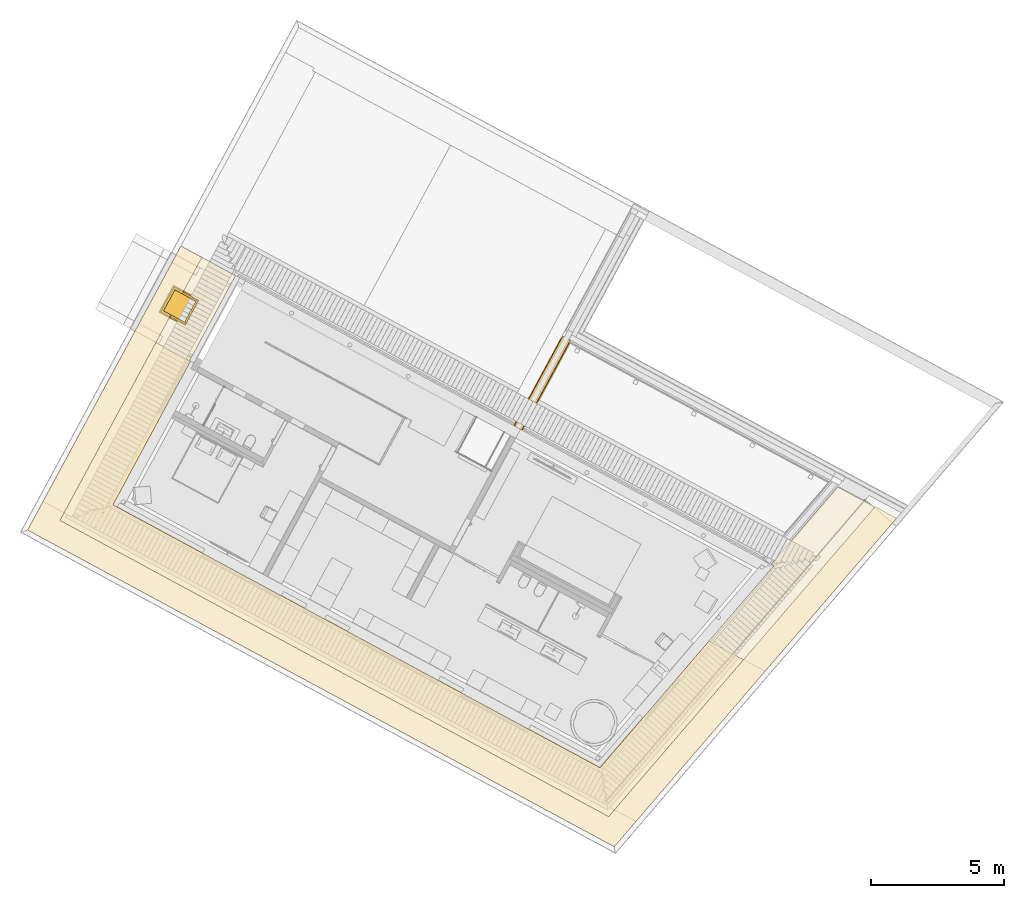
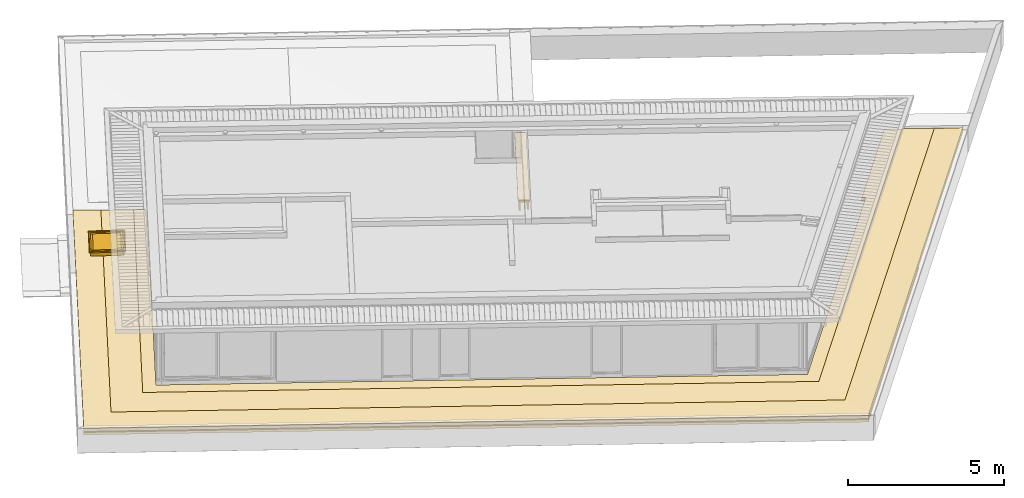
# One storey, part 13 of 48: 8 coverings, 5 windows.
"""IFC2X3 building model written with IfcOpenShell, lengths in metres."""

from ifc_helpers import new_model, entity, si_unit, converted_unit, derived_unit, money_unit, direction, frame, origin_with_axes, place, context, subcontext, project, spatial, open_shell, faceted_brep, surface_model, material, material_list, type_object, element, save


model = new_model("IFC2X3")

# Units and contexts
model_context = context("Model", 3, precision=1e-05, world=origin_with_axes(), true_north=direction((0.0, 1.0)))
body_context = subcontext(model_context, "Body", "Model", "MODEL_VIEW")
ifc_project = project(units=[si_unit("LENGTHUNIT", "METRE"), si_unit("AREAUNIT", "SQUARE_METRE"), si_unit("VOLUMEUNIT", "CUBIC_METRE"), converted_unit("PLANEANGLEUNIT", "DEGREE", entity("IfcPlaneAngleMeasure", 0.0174532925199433), si_unit("PLANEANGLEUNIT", "RADIAN"), dimensions=[0, 0, 0, 0, 0, 0, 0]), money_unit("EUR"), converted_unit("TIMEUNIT", "Year", entity("IfcTimeMeasure", 31556926.0), si_unit("TIMEUNIT", "SECOND"), dimensions=[0, 0, 1, 0, 0, 0, 0]), si_unit("MASSUNIT", "GRAM", prefix="KILO"), si_unit("THERMODYNAMICTEMPERATUREUNIT", "DEGREE_CELSIUS"), si_unit("LUMINOUSINTENSITYUNIT", "LUMEN"), si_unit("ENERGYUNIT", "JOULE", prefix="MEGA"), derived_unit("THERMALCONDUCTANCEUNIT", [(si_unit("POWERUNIT", "WATT"), 1), (si_unit("LENGTHUNIT", "METRE"), -1), (si_unit("THERMODYNAMICTEMPERATUREUNIT", "KELVIN"), -1)]), derived_unit("SPECIFICHEATCAPACITYUNIT", [(si_unit("ENERGYUNIT", "JOULE"), 1), (si_unit("MASSUNIT", "GRAM", prefix="KILO"), -1), (si_unit("THERMODYNAMICTEMPERATUREUNIT", "KELVIN"), -1)]), derived_unit("MASSDENSITYUNIT", [(si_unit("MASSUNIT", "GRAM", prefix="KILO"), 1), (si_unit("VOLUMEUNIT", "CUBIC_METRE"), -1)])], contexts=[model_context])

# Site, building, storey
site_placement = place(None, frame((-3.949935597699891, 1.740105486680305, 0.0), z_axis=(0.0, 0.0, 1.0), x_axis=(0.8799804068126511, -0.475009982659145, 0.0)))
site = spatial("IfcSite", under=ifc_project, at=site_placement, Name="Gelände", CompositionType="ELEMENT")
building_placement = place(site_placement, origin_with_axes())
building = spatial("IfcBuilding", under=site, at=building_placement, Name="Gebäude", CompositionType="ELEMENT")
storey_placement = place(building_placement, frame((0.0, 0.0, 4.55), z_axis=(0.0, 0.0, 1.0), x_axis=(1.0, 0.0, 0.0)))
storey = spatial("IfcBuildingStorey", under=building, at=storey_placement, Name="Staffelgeschoss", CompositionType="ELEMENT", Elevation=4.55)

# Windows
window_style_1 = type_object("IfcWindowStyle", Name="Dachfenster Glaskuppel 03 26", ConstructionType="NOTDEFINED", OperationType="NOTDEFINED", ParameterTakesPrecedence=False, Sizeable=False)
window_1_placement = place(storey_placement, frame((3.312612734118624, 9.025417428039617, 0.0), z_axis=(0.0, 0.0, 1.0), x_axis=(0.0, -1.0, 0.0)))
element("IfcWindow", 1, at=window_1_placement, inside=storey, type_object=window_style_1, Name="Objekt-0097", context=body_context, shape_type="SurfaceModel", body=[
    surface_model("IfcShellBasedSurfaceModel", [(-0.56, 0.0, 0.0), (-0.56, 1.119754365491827, 0.02345551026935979), (0.56, 1.119754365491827, 0.02345551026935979), (0.56, 0.0, 0.0), (-0.56, 0.0, 0.0), (0.56, 0.0, 0.0), (0.56, 1.119754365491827, 0.02345551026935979), (-0.56, 1.119754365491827, 0.02345551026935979)], [open_shell([[[0, 1, 2, 3], [4, 5, 6, 7]]])]),
    faceted_brep([(-0.5830000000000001, -0.02299495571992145, -0.00048167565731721), (0.5830000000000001, -0.02299495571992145, -0.00048167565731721), (0.5830000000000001, -0.02347663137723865, 0.02251328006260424), (-0.5830000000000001, -0.02347663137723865, 0.02251328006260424), (-0.5830000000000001, 1.142749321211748, 0.023937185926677), (0.5830000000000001, 1.142749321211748, 0.023937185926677), (-0.514, 0.04598991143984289, 0.0009633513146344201), (0.514, 0.04598991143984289, 0.0009633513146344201), (0.514, 1.073764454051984, 0.02249215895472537), (-0.514, 1.073764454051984, 0.02249215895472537), (0.5830000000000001, 1.142267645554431, 0.04693214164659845), (-0.5830000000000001, 1.142267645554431, 0.04693214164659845), (-0.514, 0.04550823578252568, 0.02395830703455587), (-0.514, 1.073282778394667, 0.04548711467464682), (0.514, 1.073282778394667, 0.04548711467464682), (0.514, 0.04550823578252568, 0.02395830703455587)], [[[0, 1, 2, 3]], [[0, 4, 5, 1], [6, 7, 8, 9]], [[1, 5, 10, 2]], [[3, 2, 10, 11], [12, 13, 14, 15]], [[4, 0, 3, 11]], [[5, 4, 11, 10]], [[7, 6, 12, 15]], [[8, 7, 15, 14]], [[9, 8, 14, 13]], [[6, 9, 13, 12]]]),
    faceted_brep([(-0.5830000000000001, -0.02347663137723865, 0.02251328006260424), (0.5830000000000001, -0.02347663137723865, 0.02251328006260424), (0.5830000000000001, -0.02395830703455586, 0.04550823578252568), (-0.5830000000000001, -0.02395830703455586, 0.04550823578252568), (-0.5830000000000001, 1.142267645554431, 0.04693214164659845), (0.5830000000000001, 1.142267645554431, 0.04693214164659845), (-0.56, -0.00048167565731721, 0.02299495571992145), (0.56, -0.00048167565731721, 0.02299495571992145), (0.56, 1.11927268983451, 0.04645046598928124), (-0.56, 1.11927268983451, 0.04645046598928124), (0.5830000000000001, 1.141785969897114, 0.06992709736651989), (-0.5830000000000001, 1.141785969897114, 0.06992709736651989), (-0.56, -0.0009633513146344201, 0.04598991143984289), (-0.56, 1.118791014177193, 0.06944542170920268), (0.56, 1.118791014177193, 0.06944542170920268), (0.56, -0.0009633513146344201, 0.04598991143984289)], [[[0, 1, 2, 3]], [[0, 4, 5, 1], [6, 7, 8, 9]], [[1, 5, 10, 2]], [[3, 2, 10, 11], [12, 13, 14, 15]], [[4, 0, 3, 11]], [[5, 4, 11, 10]], [[7, 6, 12, 15]], [[8, 7, 15, 14]], [[9, 8, 14, 13]], [[6, 9, 13, 12]]]),
    surface_model("IfcShellBasedSurfaceModel", [(-0.07502577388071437, 0.4843861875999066, 0.03315148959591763), (-0.07502577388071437, 0.6344048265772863, 0.03629393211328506), (-0.1914563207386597, 0.7508098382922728, 0.03873226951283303), (-0.1914563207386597, 0.36798117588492, 0.03071315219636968), (0.07502577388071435, 0.4843861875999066, 0.03315148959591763), (0.07502577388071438, 0.6344048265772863, 0.03629393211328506), (0.1914563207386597, 0.7508098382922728, 0.038732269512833), (-0.3027982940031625, 0.8621273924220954, 0.04106403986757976), (-0.3027982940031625, 0.2566636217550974, 0.02838138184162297), (0.1914563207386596, 0.36798117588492, 0.03071315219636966), (0.3027982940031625, 0.8621273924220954, 0.04106403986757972), (-0.4041855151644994, 0.9634923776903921, 0.04318733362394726), (-0.4041855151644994, 0.1552986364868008, 0.02625808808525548), (0.3027982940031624, 0.2566636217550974, 0.02838138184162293), (0.4041855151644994, 0.9634923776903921, 0.04318733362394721), (-0.4911868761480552, 1.050474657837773, 0.04500935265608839), (-0.4911868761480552, 0.06831635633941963, 0.02443606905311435), (0.4041855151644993, 0.1552986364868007, 0.02625808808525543), (0.4911868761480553, 1.050474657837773, 0.04500935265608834), (-0.56, 1.11927268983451, 0.04645046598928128), (-0.56, -0.0004816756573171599, 0.02299495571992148), (0.4911868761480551, 0.06831635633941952, 0.02443606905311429), (0.5600000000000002, 1.11927268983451, 0.04645046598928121), (0.5599999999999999, -0.0004816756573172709, 0.02299495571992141)], [open_shell([[[0, 1, 2, 3]], [[1, 0, 4, 5]], [[1, 5, 6, 2]], [[3, 2, 7, 8]], [[4, 0, 3, 9]], [[5, 4, 9, 6]], [[2, 6, 10, 7]], [[8, 7, 11, 12]], [[9, 3, 8, 13]], [[6, 9, 13, 10]], [[7, 10, 14, 11]], [[12, 11, 15, 16]], [[13, 8, 12, 17]], [[10, 13, 17, 14]], [[11, 14, 18, 15]], [[16, 15, 19, 20]], [[17, 12, 16, 21]], [[14, 17, 21, 18]], [[15, 18, 22, 19]], [[21, 16, 20, 23]], [[18, 21, 23, 22]]])]),
])
ifc_material_1 = material(Name="_SIWH - Beton, Stahlbeton")
window_style_2 = type_object("IfcWindowStyle", Name="_SIWH - Beton, Stahlbeton 85", ConstructionType="NOTDEFINED", OperationType="NOTDEFINED", ParameterTakesPrecedence=False, Sizeable=False)
window_2_placement = place(storey_placement, frame((3.422489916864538, 9.475417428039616, -0.4500000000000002), z_axis=(0.0, 0.0, 1.0), x_axis=(0.0, -1.0, 0.0)))
element("IfcWindow", 2, at=window_2_placement, inside=storey, type_object=window_style_2, material=ifc_material_1, Name="A-Wand064", context=body_context, shape_type="Brep", body=[
    faceted_brep([(0.0, -0.04156082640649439, 0.4744360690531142), (0.0, -0.0003829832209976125, 0.4752986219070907), (0.0, 0.0, 0.4753066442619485), (0.0, 0.0, 0.1500000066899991), (0.0, -0.08499999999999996, 0.1500000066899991), (0.0, -0.08499999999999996, 0.4505211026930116), (0.0, -0.06388726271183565, 0.450963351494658), (0.0, -0.06388726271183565, 0.4739683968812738), (0.8996169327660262, 0.0, 0.4753066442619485), (0.0003830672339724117, 0.0, 0.4753066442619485), (0.8999999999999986, -0.04156082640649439, 0.4744360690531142), (0.8999999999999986, -0.0003829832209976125, 0.4752986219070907), (0.8999999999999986, 0.0, 0.4753066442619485), (0.8999999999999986, 0.0, 0.1500000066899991), (0.8999999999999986, -0.08499999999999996, 0.1500000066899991), (0.8999999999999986, -0.08499999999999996, 0.4505211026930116), (0.8999999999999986, -0.06388726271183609, 0.450963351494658), (0.8999999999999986, -0.06388726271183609, 0.4739683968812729)], [[[0, 1, 2, 3, 4, 5, 6, 7]], [[8, 9, 1, 0, 10, 11]], [[9, 2, 1]], [[8, 12, 13, 3, 2, 9]], [[13, 14, 4, 3]], [[15, 5, 4, 14]], [[6, 5, 15, 16]], [[7, 6, 16, 17]], [[0, 7, 17, 10]], [[16, 15, 14, 13, 12, 11, 10, 17]], [[12, 8, 11]]]),
])
window_3_placement = place(storey_placement, frame((4.322489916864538, 9.475417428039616, -0.4500000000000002), z_axis=(0.0, 0.0, 1.0), x_axis=(-1.0, 0.0, 0.0)))
element("IfcWindow", 3, at=window_3_placement, inside=storey, type_object=window_style_2, material=ifc_material_1, Name="A-Wand063", context=body_context, shape_type="Brep", body=[
    faceted_brep([(0.9850000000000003, -0.08500000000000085, 0.4505211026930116), (0.0, -0.08500000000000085, 0.4711539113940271), (0.0, -0.08500000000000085, 0.1500000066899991), (0.9850000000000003, -0.08500000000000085, 0.1500000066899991), (0.0, -0.06400000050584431, 0.4711539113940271), (0.9850000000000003, 0.0, 0.4505211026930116), (0.963887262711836, 0.0, 0.450963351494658), (0.963887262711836, -0.06400000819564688, 0.450963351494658), (0.0, -0.0005804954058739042, 0.4941589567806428), (0.0, 0.0, 0.4941589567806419), (0.0, 0.0, 0.1500000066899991), (0.0, -0.06400000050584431, 0.4941589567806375), (0.0, -0.04118687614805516, 0.4941589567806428), (0.9850000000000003, 0.0, 0.1500000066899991), (0.0005803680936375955, 0.0, 0.4941467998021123), (0.900382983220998, 0.0, 0.4752986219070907), (0.9415608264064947, 0.0, 0.4744360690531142), (0.963887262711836, 0.0, 0.4739683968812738), (0.963887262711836, -0.06351821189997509, 0.4739683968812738), (0.963887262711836, -0.06400000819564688, 0.4739683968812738), (0.9415608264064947, -0.04118687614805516, 0.4744360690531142)], [[[0, 1, 2, 3]], [[4, 1, 0, 5, 6, 7]], [[8, 9, 10, 2, 1, 4, 11, 12]], [[10, 13, 3, 2]], [[5, 0, 3, 13]], [[6, 5, 13, 10, 9, 14, 15, 16, 17]], [[6, 17, 18, 19, 7]], [[11, 4, 7, 19]], [[9, 8, 14]], [[12, 11, 19, 18, 20]], [[8, 12, 20, 15, 14]], [[16, 15, 20]], [[17, 16, 20, 18]]]),
])
window_4_placement = place(storey_placement, frame((4.322489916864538, 8.575417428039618, -0.4500000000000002), z_axis=(0.0, 0.0, 1.0), x_axis=(0.0, 1.0, 0.0)))
element("IfcWindow", 4, at=window_4_placement, inside=storey, type_object=window_style_2, material=ifc_material_1, Name="A-Wand062", context=body_context, shape_type="Brep", body=[
    faceted_brep([(0.9849999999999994, 0.0, 0.4711539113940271), (0.9849999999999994, -0.08499999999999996, 0.4729344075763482), (0.9849999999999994, -0.08499999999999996, 0.1500000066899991), (0.9849999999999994, 0.0, 0.1500000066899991), (0.0, -0.08499999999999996, 0.4729344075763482), (0.9640000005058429, 0.0, 0.4711539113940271), (0.9639999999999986, -0.06340559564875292, 0.4724820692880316), (0.9640000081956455, -0.063887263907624, 0.4724921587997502), (0.0, -0.063887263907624, 0.4724921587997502), (0.0, -0.08499999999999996, 0.1500000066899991), (0.0, 0.0, 0.1500000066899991), (0.0, 0.0, 0.4941589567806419), (0.9005804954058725, 0.0, 0.4941589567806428), (0.9411868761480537, 0.0, 0.4941589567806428), (0.9640000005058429, 0.0, 0.4941589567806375), (0.9639999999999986, -0.06340559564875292, 0.495487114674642), (0.0, -0.06340559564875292, 0.4954871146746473), (0.0, -0.04059747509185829, 0.4950093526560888), (0.9411868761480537, -0.04059747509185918, 0.4950093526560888)], [[[0, 1, 2, 3]], [[4, 1, 0, 5, 6, 7, 8]], [[1, 4, 9, 2]], [[9, 10, 3, 2]], [[5, 0, 3, 10, 11, 12, 13, 14]], [[5, 14, 15, 6]], [[6, 15, 7]], [[16, 8, 7, 15]], [[17, 11, 10, 9, 4, 8, 16]], [[11, 17, 18, 12]], [[13, 12, 18]], [[14, 13, 18, 15]], [[17, 16, 15, 18]]]),
])
window_5_placement = place(storey_placement, frame((3.422489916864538, 8.575417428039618, -0.4500000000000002), z_axis=(0.0, 0.0, 1.0), x_axis=(1.0, 0.0, 0.0)))
element("IfcWindow", 5, at=window_5_placement, inside=storey, type_object=window_style_2, material=ifc_material_1, Name="A-Wand061", context=body_context, shape_type="Brep", body=[
    faceted_brep([(0.9634055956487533, 0.0, 0.4954871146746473), (0.9638872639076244, 0.0, 0.4724921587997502), (0.9850000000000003, 0.0, 0.4729344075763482), (0.9850000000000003, 0.0, 0.1500000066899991), (-0.08499999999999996, 0.0, 0.1500000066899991), (-0.08499999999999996, 0.0, 0.4505211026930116), (-0.06388726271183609, 0.0, 0.450963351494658), (-0.06388726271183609, 0.0, 0.4739683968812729), (-0.04156082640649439, 0.0, 0.4744360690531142), (-0.0003829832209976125, 0.0, 0.4752986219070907), (0.899419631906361, 0.0, 0.4941467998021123), (0.9405974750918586, 0.0, 0.4950093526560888), (0.9634055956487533, -0.06400000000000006, 0.4954871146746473), (0.9638872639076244, -0.06400000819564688, 0.4724921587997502), (0.9850000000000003, -0.08499999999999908, 0.4729344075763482), (0.9634055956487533, -0.06400000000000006, 0.4724820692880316), (-0.06388726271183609, -0.06400000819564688, 0.450963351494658), (-0.08499999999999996, -0.08500000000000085, 0.4505211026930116), (0.9850000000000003, -0.08499999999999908, 0.1500000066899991), (-0.08499999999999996, -0.08500000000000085, 0.1500000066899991), (-0.06388726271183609, -0.06400000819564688, 0.4739683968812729), (-0.06388726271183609, -0.06351821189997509, 0.4739683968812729), (-0.04156082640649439, -0.04118687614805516, 0.4744360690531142), (0.9405974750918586, -0.04118687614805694, 0.4950093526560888)], [[[0, 1, 2, 3, 4, 5, 6, 7, 8, 9, 10, 11]], [[1, 0, 12, 13]], [[14, 2, 1, 13, 15, 16, 6, 5, 17]], [[2, 14, 18, 3]], [[18, 19, 4, 3]], [[17, 5, 4, 19]], [[7, 6, 16, 20, 21]], [[8, 7, 21, 22]], [[9, 8, 22]], [[10, 9, 22, 23]], [[11, 10, 23]], [[0, 11, 23, 12]], [[13, 12, 15]], [[15, 12, 20, 16]], [[14, 17, 19, 18]], [[20, 12, 23, 22, 21]]]),
])

# Coverings
ifc_material_2 = material(Name="_SIWH - Dämmung, hart Mineralwolle")
covering_type_1 = type_object("IfcCoveringType", Name="_SIWH - Dämmung, hart Mineralwolle 100", PredefinedType="NOTDEFINED")
covering_1_placement = place(storey_placement, frame((2.837482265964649, 7.393058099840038, -0.299999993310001), z_axis=(0.0, 0.0, 1.0), x_axis=(1.0, 0.0, 0.0)))
element("IfcCovering", 6, at=covering_1_placement, inside=storey, type_object=covering_type_1, material=ifc_material_2, Name="Decke011", PredefinedType="NOTDEFINED", context=body_context, shape_type="Brep", body=[
    faceted_brep([(0.0, 0.0, 0.0), (0.0, 0.0, -0.1000000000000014), (0.0, -8.513069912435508, -0.1000000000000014), (0.0, -8.513069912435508, 0.0), (2.379998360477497, 0.0, 0.0), (2.379998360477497, 0.0, -0.1000000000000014), (2.379998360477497, -6.148070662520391, -0.1000000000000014), (23.22357255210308, -6.148070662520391, -0.1000000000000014), (24.56636302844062, 0.0, -0.1000000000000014), (26.96666212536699, 0.0, -0.1000000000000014), (25.10733588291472, -8.513069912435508, -0.1000000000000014), (25.10733588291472, -8.513069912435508, 0.0), (26.96666212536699, 0.0, 0.0), (24.56636302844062, 0.0, 0.0), (23.22357255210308, -6.148070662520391, 0.0), (2.379998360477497, -6.148070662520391, 0.0)], [[[0, 1, 2, 3]], [[4, 5, 1, 0]], [[2, 1, 5, 6, 7, 8, 9, 10]], [[3, 2, 10, 11]], [[4, 0, 3, 11, 12, 13, 14, 15]], [[15, 6, 5, 4]], [[14, 7, 6, 15]], [[13, 8, 7, 14]], [[12, 9, 8, 13]], [[11, 10, 9, 12]]]),
])
ifc_material_3 = material(Name="Dämmung, hart Mineralwolle")
covering_type_2 = type_object("IfcCoveringType", Name="Dämmung, hart Mineralwolle", PredefinedType="NOTDEFINED")
covering_2_placement = place(storey_placement, frame((3.73748226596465, -0.2200118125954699, -0.299999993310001), z_axis=(0.0, 0.0, 1.0), x_axis=(1.0, 0.0, 0.0)))
element("IfcCovering", 7, at=covering_2_placement, inside=storey, type_object=covering_type_2, material=ifc_material_3, Name="Freifläche-006", PredefinedType="NOTDEFINED", context=body_context, shape_type="Brep", body=[
    faceted_brep([(1.479998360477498, 7.613070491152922, 0.0), (1.479998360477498, 7.613070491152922, 0.04899999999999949), (1.479998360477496, 1.464999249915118, 0.04899999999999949), (1.479998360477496, 1.464999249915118, 0.0), (1.439999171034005, 7.613070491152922, 0.04821623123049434), (1.439999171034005, 7.613070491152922, 0.0), (1.439999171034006, 11.25781242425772, 0.04821623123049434), (0.0, 11.25781242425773, 0.01999999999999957), (0.0, 9.695429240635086, 0.01999999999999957), (0.5850076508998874, 9.695429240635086, 0.03146300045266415), (0.5850076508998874, 8.795429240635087, 0.03146300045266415), (0.0, 8.795429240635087, 0.01999999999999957), (0.0, 0.0, 0.01999999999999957), (22.32357255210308, 1.464999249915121, 0.04899999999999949), (22.32357255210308, 1.464999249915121, 0.0), (24.46240552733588, 11.25781242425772, 0.0), (24.33973615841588, 11.25781242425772, 0.0), (25.16646568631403, 15.04305791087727, 0.0), (26.7682182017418, 15.04305791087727, 0.0), (23.48268752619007, 0.0, 0.0), (0.0, 0.0, 0.0), (0.0, 8.795429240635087, 0.0), (0.5850076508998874, 8.795429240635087, 0.0), (0.5850076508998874, 9.695429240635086, 0.0), (0.0, 9.695429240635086, 0.0), (0.0, 11.25781242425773, 0.0), (1.439999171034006, 11.25781242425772, 0.0), (23.48268752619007, 0.0, 0.01999999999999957), (24.46240552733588, 11.25781242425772, 0.04899999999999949), (24.33973615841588, 11.25781242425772, 0.04899999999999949), (25.16646568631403, 15.04305791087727, 0.04899999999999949), (26.7682182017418, 15.04305791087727, 0.02000000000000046)], [[[0, 1, 2, 3]], [[4, 1, 0, 5]], [[4, 6, 7, 8, 9, 10, 11, 12, 2, 1]], [[13, 14, 3, 2]], [[5, 0, 3, 14, 15, 16, 17, 18, 19, 20, 21, 22, 23, 24, 25, 26]], [[26, 6, 4, 5]], [[6, 26, 25, 7]], [[25, 24, 8, 7]], [[23, 9, 8, 24]], [[22, 10, 9, 23]], [[21, 11, 10, 22]], [[12, 11, 21, 20]], [[13, 2, 12, 27]], [[28, 15, 14, 13]], [[29, 16, 15, 28]], [[30, 17, 16, 29]], [[31, 18, 17, 30]], [[27, 19, 18, 31]], [[12, 20, 19, 27]], [[28, 13, 27, 31]], [[28, 30, 29]], [[30, 28, 31]]]),
])
covering_3_placement = place(storey_placement, frame((2.837482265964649, -1.12001181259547, -0.299999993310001), z_axis=(0.0, 0.0, 1.0), x_axis=(1.0, 0.0, 0.0)))
element("IfcCovering", 8, at=covering_3_placement, inside=storey, type_object=covering_type_2, material=ifc_material_3, Name="Freifläche-006", PredefinedType="NOTDEFINED", context=body_context, shape_type="Brep", body=[
    faceted_brep([(0.5850076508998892, 9.695429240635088, 0.02629984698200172), (0.5850076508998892, 10.59542924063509, 0.02629984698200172), (0.8999999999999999, 10.59542924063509, 0.01999999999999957), (0.8999999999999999, 12.15781242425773, 0.01999999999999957), (0.0, 12.15781242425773, 0.03799999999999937), (0.0, 0.0, 0.03799999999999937), (0.8999999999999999, 0.9000000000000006, 0.01999999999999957), (0.8999999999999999, 9.695429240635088, 0.01999999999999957), (0.5850076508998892, 9.695429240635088, 0.0), (0.5850076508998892, 10.59542924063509, 0.0), (0.8999999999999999, 10.59542924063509, 0.0), (0.8999999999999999, 12.15781242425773, 0.0), (0.0, 12.15781242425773, 0.0), (0.0, 0.0, 0.0), (25.10733588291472, 0.0, 0.03799999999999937), (24.38268752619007, 0.9000000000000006, 0.01999999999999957), (0.8999999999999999, 9.695429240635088, 0.0), (0.8999999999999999, 0.9000000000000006, 0.0), (24.38268752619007, 0.9000000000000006, 0.0), (27.6682182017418, 15.94305791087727, 0.0), (28.58943414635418, 15.94305791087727, 0.0), (25.10733588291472, 0.0, 0.0), (28.58943414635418, 15.94305791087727, 0.03799999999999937), (27.6682182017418, 15.94305791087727, 0.01999999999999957)], [[[0, 1, 2, 3, 4, 5, 6, 7]], [[1, 0, 8, 9]], [[10, 2, 1, 9]], [[2, 10, 11, 3]], [[11, 12, 4, 3]], [[12, 13, 5, 4]], [[6, 5, 14, 15]], [[16, 7, 6, 17]], [[0, 7, 16, 8]], [[8, 16, 17, 18, 19, 20, 21, 13, 12, 11, 10, 9]], [[13, 21, 14, 5]], [[15, 14, 22, 23]], [[18, 17, 6, 15]], [[19, 18, 15, 23]], [[20, 19, 23, 22]], [[21, 20, 22, 14]]]),
])
ifc_material_4 = material(Name="_SIWH - Gründach")
covering_type_3 = type_object("IfcCoveringType", Name="_SIWH - Gründach", PredefinedType="NOTDEFINED")
covering_4_placement = place(storey_placement, frame((2.837482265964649, -1.12001181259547, -0.2799999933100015), z_axis=(0.0, 0.0, 1.0), x_axis=(1.0, 0.0, 0.0)))
element("IfcCovering", 9, at=covering_4_placement, inside=storey, type_object=covering_type_3, material=ifc_material_4, Name="Freifläche-006", PredefinedType="NOTDEFINED", context=body_context, shape_type="Brep", body=[
    faceted_brep([(0.5850076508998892, 9.695429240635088, 0.136299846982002), (0.5850076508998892, 10.59542924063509, 0.136299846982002), (0.8999999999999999, 10.59542924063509, 0.1299999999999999), (0.8999999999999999, 12.15781242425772, 0.1299999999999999), (0.0, 12.15781242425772, 0.1479999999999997), (0.0, 0.0, 0.1479999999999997), (0.8999999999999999, 0.9000000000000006, 0.1299999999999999), (0.8999999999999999, 9.695429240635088, 0.1299999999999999), (0.5850076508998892, 9.695429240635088, 0.006299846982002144), (0.5850076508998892, 10.59542924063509, 0.006299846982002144), (0.8999999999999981, 10.59542924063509, 0.0), (0.8999999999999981, 12.15781242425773, 0.0), (0.0, 12.15781242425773, 0.01799999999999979), (0.0, 0.0, 0.01799999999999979), (25.10733588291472, 0.0, 0.1479999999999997), (24.38268752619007, 0.9000000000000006, 0.1299999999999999), (0.8999999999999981, 9.695429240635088, 0.0), (0.8999999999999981, 0.9000000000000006, 0.0), (25.10733588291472, 0.0, 0.01799999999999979), (28.58943414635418, 15.94305791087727, 0.1479999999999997), (27.6682182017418, 15.94305791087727, 0.1299999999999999), (24.38268752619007, 0.9000000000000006, 0.0), (28.58943414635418, 15.94305791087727, 0.01799999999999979), (27.6682182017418, 15.94305791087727, 0.0)], [[[0, 1, 2, 3, 4, 5, 6, 7]], [[1, 0, 8, 9]], [[10, 2, 1, 9]], [[2, 10, 11, 3]], [[4, 3, 11, 12]], [[5, 4, 12, 13]], [[14, 15, 6, 5]], [[16, 7, 6, 17]], [[0, 7, 16, 8]], [[8, 16, 17, 13, 12, 11, 10, 9]], [[14, 5, 13, 18]], [[19, 20, 15, 14]], [[6, 15, 21, 17]], [[17, 21, 18, 13]], [[19, 14, 18, 22]], [[20, 19, 22, 23]], [[15, 20, 23, 21]], [[18, 21, 23, 22]]]),
])
covering_5_placement = place(storey_placement, frame((3.73748226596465, -0.2200118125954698, -0.2799999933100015), z_axis=(0.0, 0.0, 1.0), x_axis=(1.0, 0.0, 0.0)))
element("IfcCovering", 10, at=covering_5_placement, inside=storey, type_object=covering_type_3, material=ifc_material_4, Name="Freifläche-006", PredefinedType="NOTDEFINED", context=body_context, shape_type="Brep", body=[
    faceted_brep([(0.5850076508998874, 9.695429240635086, 0.1414630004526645), (0.5850076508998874, 8.795429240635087, 0.1414630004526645), (0.0, 8.795429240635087, 0.1299999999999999), (0.0, 0.0, 0.1299999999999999), (1.044998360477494, 1.034407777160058, 0.1504763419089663), (1.044998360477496, 11.25781242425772, 0.1504763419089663), (0.0, 11.25781242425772, 0.1299999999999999), (0.0, 9.695429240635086, 0.1299999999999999), (0.5850076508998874, 8.795429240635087, 0.01146300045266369), (0.5850076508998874, 9.695429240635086, 0.01146300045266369), (0.0, 8.795429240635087, 0.0), (0.0, 0.0, 0.0), (23.48268752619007, 0.0, 0.1299999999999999), (22.66774679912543, 1.029999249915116, 0.1503890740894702), (1.044998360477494, 1.029999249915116, 0.1503890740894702), (1.044998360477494, 1.029999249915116, 0.02038907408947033), (1.044998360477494, 1.034407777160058, 0.02047634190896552), (1.044998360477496, 11.25781242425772, 0.02047634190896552), (0.0, 11.25781242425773, 0.0), (0.0, 9.695429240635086, 0.0), (23.48268752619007, 0.0, 0.0), (26.7682182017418, 15.04305791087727, 0.1300000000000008), (25.15653363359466, 12.39730016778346, 0.1502700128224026), (22.67381925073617, 1.029999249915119, 0.1502700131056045), (22.67381925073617, 1.029999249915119, 0.02027001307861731), (22.66774679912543, 1.029999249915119, 0.02038907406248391), (26.7682182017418, 15.04305791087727, 3.361693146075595e-10), (25.73438943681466, 15.04305791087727, 0.1487176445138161), (25.73438943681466, 15.04305791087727, 0.01871764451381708), (25.15653363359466, 12.39730016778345, 0.02027001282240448)], [[[0, 1, 2, 3, 4, 5, 6, 7]], [[8, 1, 0, 9]], [[10, 2, 1, 8]], [[3, 2, 10, 11]], [[12, 13, 14, 4, 3]], [[15, 16, 17, 5, 4, 14]], [[18, 6, 5, 17]], [[18, 19, 7, 6]], [[9, 0, 7, 19]], [[8, 9, 19, 18, 17, 16, 11, 10]], [[20, 12, 3, 11]], [[21, 22, 23, 13, 12]], [[15, 14, 13, 23, 24, 25]], [[11, 16, 15, 25, 20]], [[26, 21, 12, 20]], [[22, 21, 27]], [[24, 23, 22, 27, 28, 29]], [[20, 25, 24, 29, 26]], [[21, 26, 28, 27]], [[28, 26, 29]]]),
])
ifc_material_5 = material(Name="_SIWH - Metall, Aluminium")
ifc_material_6 = material(Name="_SIWH - Holz, Bauholz")
ifc_material_list = material_list([ifc_material_5, ifc_material_6])
covering_type_4 = type_object("IfcCoveringType", Name="_SIWH - Attikablech3 Achse3+4' EG 380 x 92", PredefinedType="NOTDEFINED")
covering_6_placement = place(storey_placement, frame((17.36749042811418, 11.03780175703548, -0.3999999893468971), z_axis=(0.0, 0.0, 1.0), x_axis=(-4.180477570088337e-06, 0.9999999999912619, 0.0)))
element("IfcCovering", 11, at=covering_6_placement, inside=storey, type_object=covering_type_4, material=ifc_material_list, Name="Wand-028", PredefinedType="NOTDEFINED", context=body_context, shape_type="Brep", body=[
    faceted_brep([(3.755245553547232, -0.09000000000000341, 0.2849999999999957), (3.755245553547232, -0.09000000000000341, 0.3768999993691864), (0.0, -0.09000000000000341, 0.3768999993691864), (0.0, -0.09000000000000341, 0.2849999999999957), (3.755245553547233, -0.07000000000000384, 0.3049999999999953), (3.755245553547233, -0.07141421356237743, 0.306414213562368), (3.755245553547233, -0.08800000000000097, 0.2898284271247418), (3.755245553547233, -0.08800000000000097, 0.3748287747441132), (3.755245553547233, 0.2880000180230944, 0.3749687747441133), (3.755245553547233, 0.2880000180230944, 0.2898284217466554), (3.755245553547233, 0.2716378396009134, 0.3061906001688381), (3.755245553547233, 0.2702236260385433, 0.3047763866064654), (3.755245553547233, 0.2900000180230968, 0.2849999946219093), (3.755245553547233, 0.2900000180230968, 0.3768999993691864), (0.0, 0.2900000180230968, 0.3768999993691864), (0.0, 0.2900000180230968, 0.2849999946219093), (0.0, 0.2702236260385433, 0.3047763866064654), (0.0, 0.2716378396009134, 0.3061906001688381), (0.0, 0.2880000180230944, 0.2898284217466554), (0.0, 0.2880000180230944, 0.3749687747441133), (0.0, -0.08800000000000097, 0.3748287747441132), (0.0, -0.08800000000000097, 0.2898284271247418), (0.0, -0.07141421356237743, 0.306414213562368), (0.0, -0.07000000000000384, 0.3049999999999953)], [[[0, 1, 2, 3]], [[0, 4, 5, 6, 7, 8, 9, 10, 11, 12, 13, 1]], [[1, 13, 14, 2]], [[3, 2, 14, 15, 16, 17, 18, 19, 20, 21, 22, 23]], [[4, 0, 3, 23]], [[5, 4, 23, 22]], [[6, 5, 22, 21]], [[7, 6, 21, 20]], [[8, 7, 20, 19]], [[9, 8, 19, 18]], [[10, 9, 18, 17]], [[11, 10, 17, 16]], [[12, 11, 16, 15]], [[13, 12, 15, 14]]]),
    faceted_brep([(3.755245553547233, 0.2600000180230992, 0.3599999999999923), (3.755245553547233, 0.2600000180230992, 0.3349999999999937), (0.0, 0.2600000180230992, 0.3349999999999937), (0.0, 0.2600000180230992, 0.3599999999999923), (3.755245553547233, -0.06000000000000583, 0.3599999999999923), (3.755245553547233, -0.06000000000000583, 0.3349999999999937), (0.0, -0.06000000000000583, 0.3349999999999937), (0.0, -0.06000000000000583, 0.3599999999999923)], [[[0, 1, 2, 3]], [[0, 4, 5, 1]], [[1, 5, 6, 2]], [[3, 2, 6, 7]], [[4, 0, 3, 7]], [[5, 4, 7, 6]]]),
])
covering_type_5 = type_object("IfcCoveringType", Name="_SIWH - Attika4 Achse3 EG 320 x 385", PredefinedType="NOTDEFINED")
covering_7_placement = place(storey_placement, frame((17.36749037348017, 14.88301818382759, -0.3999999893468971), z_axis=(0.0, 0.0, 1.0), x_axis=(0.0, -1.0, 0.0)))
element("IfcCovering", 12, at=covering_7_placement, inside=storey, type_object=covering_type_5, material=ifc_material_2, Name="A-Wand058", PredefinedType="NOTDEFINED", context=body_context, shape_type="Brep", body=[
    faceted_brep([(0.0, -0.2600000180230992, -0.04999999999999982), (3.845217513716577, -0.2600000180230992, -0.04999999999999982), (3.845217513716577, -0.2600000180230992, 0.3349999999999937), (0.0, -0.2600000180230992, 0.3349999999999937), (0.0, -0.2000000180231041, -0.04999999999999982), (3.845217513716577, -0.2000000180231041, -0.04999999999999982), (3.845217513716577, -0.2000000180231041, 0.274999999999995), (3.845217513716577, 0.0, 0.274999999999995), (3.845217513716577, 0.0, 0.0), (3.845217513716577, 0.06000000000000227, 0.0), (3.845217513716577, 0.05999999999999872, 0.3349999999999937), (0.0, 0.05999999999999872, 0.3349999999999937), (0.0, 0.06000000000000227, 0.0), (0.0, 0.0, 0.0), (0.0, 0.0, 0.274999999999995), (0.0, -0.2000000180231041, 0.274999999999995)], [[[0, 1, 2, 3]], [[4, 5, 1, 0]], [[2, 1, 5, 6, 7, 8, 9, 10]], [[3, 2, 10, 11]], [[4, 0, 3, 11, 12, 13, 14, 15]], [[15, 6, 5, 4]], [[14, 7, 6, 15]], [[13, 8, 7, 14]], [[12, 9, 8, 13]], [[11, 10, 9, 12]]]),
])
ifc_material_7 = material(Name="_SIWH - Schotter, fein")
covering_type_6 = type_object("IfcCoveringType", Name="_SIWH - Schotter, fein  150", PredefinedType="NOTDEFINED")
covering_8_placement = place(storey_placement, frame((4.782480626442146, 11.03780061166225, -0.1499999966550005), z_axis=(0.0, 0.0, 1.0), x_axis=(1.0, 0.0, 0.0)))
element("IfcCovering", 13, at=covering_8_placement, inside=storey, type_object=covering_type_6, material=ifc_material_7, Name="Decke053", PredefinedType="NOTDEFINED", context=body_context, shape_type="Brep", body=[
    faceted_brep([(21.62882089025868, -10.2278131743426, 0.0), (21.62882089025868, -10.2278131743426, -0.1097299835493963), (24.11153527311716, 1.139487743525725, -0.1097299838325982), (24.68939107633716, 3.785245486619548, -0.1112823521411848), (24.68939107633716, 3.785245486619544, 0.0), (0.0, -10.22781317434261, -0.1096109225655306), (21.62274843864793, -10.2278131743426, -0.1096109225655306), (0.0, -10.22781317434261, 0.0), (23.41740716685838, 0.0, -0.100999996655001), (21.27857419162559, -9.792813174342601, -0.100999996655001), (24.12146732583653, 3.785245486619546, -0.100999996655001), (24.12146732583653, 3.785245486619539, 0.0), (21.27857419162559, -9.792813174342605, 0.0), (0.4350000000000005, -9.792813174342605, 0.0), (0.4350000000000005, -3.644741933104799, 0.0), (0.3950008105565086, -3.644741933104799, 0.0), (0.3950008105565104, 0.0, 0.0), (0.0, 0.0, 0.0), (23.29473779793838, 0.0, 0.0), (23.41740716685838, 0.0, 0.0), (0.0, -10.22340464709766, -0.1095236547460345), (0.4350000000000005, -9.792813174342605, -0.100999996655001), (0.0, 0.0, -0.1095236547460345), (23.29473779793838, 0.0, -0.100999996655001), (0.4350000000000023, -3.644741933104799, -0.100999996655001), (0.3950008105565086, -3.644741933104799, -0.1017837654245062), (0.3950008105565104, 0.0, -0.1017837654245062)], [[[0, 1, 2, 3, 4]], [[5, 6, 1, 0, 7]], [[8, 2, 1, 6, 9]], [[8, 10, 3, 2]], [[4, 3, 10, 11]], [[12, 13, 14, 15, 16, 17, 7, 0, 4, 11, 18, 19]], [[9, 6, 5, 20, 21]], [[22, 20, 5, 7, 17]], [[19, 8, 9, 12]], [[8, 23, 10]], [[11, 10, 23, 18]], [[12, 9, 21, 13]], [[13, 21, 24, 14]], [[14, 24, 25, 15]], [[15, 25, 26, 16]], [[16, 26, 22, 17]], [[18, 23, 8, 19]], [[26, 25, 24, 21, 20, 22]]]),
])

save(model, "model.ifc")
